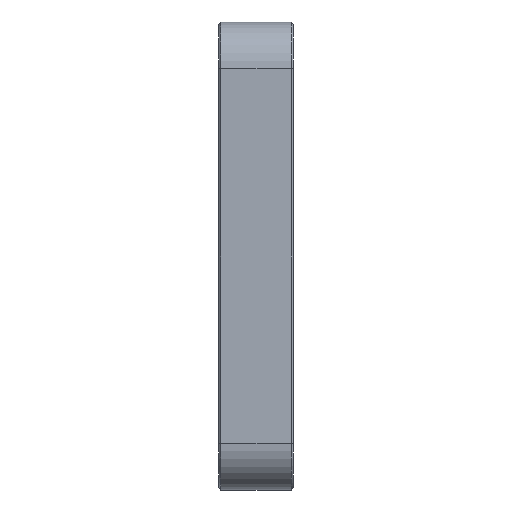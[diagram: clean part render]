
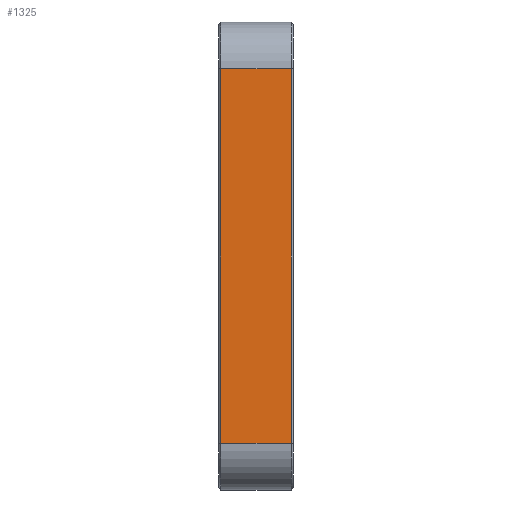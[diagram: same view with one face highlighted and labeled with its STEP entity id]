
A CAD part, left-side view. The second image highlights one B-rep face of the part: STEP entity #1325.
In plain terms, the highlighted planar face has unit normal (-1, 0, 0).
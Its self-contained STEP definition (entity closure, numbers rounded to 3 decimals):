
#162 = CARTESIAN_POINT ( 'NONE',  ( -50., 8., -50. ) ) ;
#221 = VERTEX_POINT ( 'NONE', #1625 ) ;
#258 = CARTESIAN_POINT ( 'NONE',  ( -50., -7.5, -40. ) ) ;
#300 = VECTOR ( 'NONE', #305, 1000. ) ;
#305 = DIRECTION ( 'NONE',  ( 0., 0., -1. ) ) ;
#484 = LINE ( 'NONE', #1035, #1242 ) ;
#501 = ORIENTED_EDGE ( 'NONE', *, *, #646, .T. ) ;
#523 = DIRECTION ( 'NONE',  ( 0., 0., 1. ) ) ;
#560 = LINE ( 'NONE', #1069, #1721 ) ;
#610 = DIRECTION ( 'NONE',  ( 1., 0., 0. ) ) ;
#646 = EDGE_CURVE ( 'NONE', #1075, #221, #484, .T. ) ;
#656 = EDGE_LOOP ( 'NONE', ( #501, #1119, #949, #1337 ) ) ;
#730 = LINE ( 'NONE', #1550, #300 ) ;
#732 = FACE_OUTER_BOUND ( 'NONE', #656, .T. ) ;
#773 = VERTEX_POINT ( 'NONE', #258 ) ;
#826 = LINE ( 'NONE', #1635, #905 ) ;
#833 = CARTESIAN_POINT ( 'NONE',  ( -50., 7.5, -40. ) ) ;
#905 = VECTOR ( 'NONE', #523, 1000. ) ;
#949 = ORIENTED_EDGE ( 'NONE', *, *, #1480, .T. ) ;
#1007 = CARTESIAN_POINT ( 'NONE',  ( -50., -7.5, 40. ) ) ;
#1035 = CARTESIAN_POINT ( 'NONE',  ( -50., 8., 40. ) ) ;
#1069 = CARTESIAN_POINT ( 'NONE',  ( -50., 8., -40. ) ) ;
#1075 = VERTEX_POINT ( 'NONE', #1007 ) ;
#1102 = DIRECTION ( 'NONE',  ( 0., -1., 0. ) ) ;
#1119 = ORIENTED_EDGE ( 'NONE', *, *, #1754, .T. ) ;
#1151 = DIRECTION ( 'NONE',  ( 0., 1., 0. ) ) ;
#1242 = VECTOR ( 'NONE', #1151, 1000. ) ;
#1276 = PLANE ( 'NONE',  #1551 ) ;
#1325 = ADVANCED_FACE ( 'NONE', ( #732 ), #1276, .F. ) ;
#1337 = ORIENTED_EDGE ( 'NONE', *, *, #1575, .T. ) ;
#1477 = VERTEX_POINT ( 'NONE', #833 ) ;
#1480 = EDGE_CURVE ( 'NONE', #1477, #773, #560, .T. ) ;
#1550 = CARTESIAN_POINT ( 'NONE',  ( -50., 7.5, -50. ) ) ;
#1551 = AXIS2_PLACEMENT_3D ( 'NONE', #162, #610, #1562 ) ;
#1562 = DIRECTION ( 'NONE',  ( 0., 0., -1. ) ) ;
#1575 = EDGE_CURVE ( 'NONE', #773, #1075, #826, .T. ) ;
#1625 = CARTESIAN_POINT ( 'NONE',  ( -50., 7.5, 40. ) ) ;
#1635 = CARTESIAN_POINT ( 'NONE',  ( -50., -7.5, 40. ) ) ;
#1721 = VECTOR ( 'NONE', #1102, 1000. ) ;
#1754 = EDGE_CURVE ( 'NONE', #221, #1477, #730, .T. ) ;
